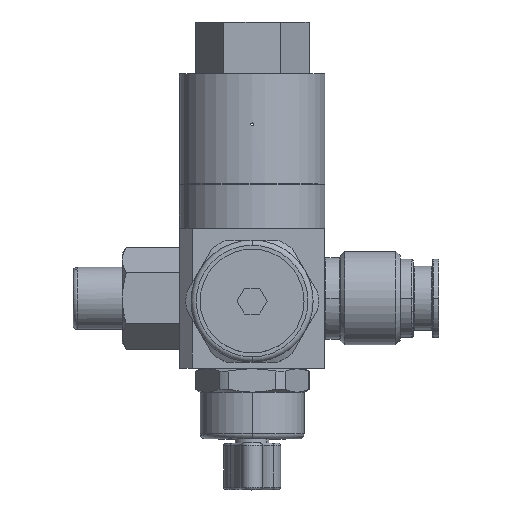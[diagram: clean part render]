
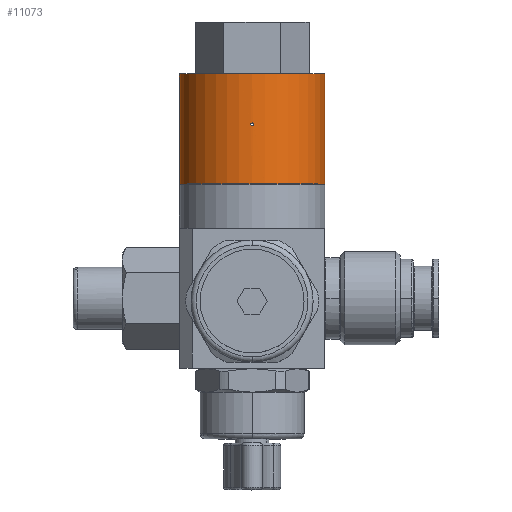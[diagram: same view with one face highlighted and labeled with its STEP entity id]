
A CAD part, top view. The second image highlights one B-rep face of the part: STEP entity #11073.
In plain terms, the highlighted cylindrical face has radius 14 mm (diameter 28 mm), a partial arc.
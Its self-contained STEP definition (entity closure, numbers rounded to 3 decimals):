
#10553=CARTESIAN_POINT('',(0.,0.,0.));
#10554=DIRECTION('',(0.,-1.,0.));
#10555=DIRECTION('',(-1.,0.,0.));
#10556=AXIS2_PLACEMENT_3D('',#10553,#10554,#10555);
#10579=DIRECTION('',(0.,1.,0.));
#10580=VECTOR('',#10579,21.2);
#10581=CARTESIAN_POINT('',(14.,-21.2,0.));
#10582=LINE('',#10581,#10580);
#10583=CARTESIAN_POINT('',(0.,-9.45,-14.));
#10584=CARTESIAN_POINT('',(0.034,-9.45,-14.));
#10585=CARTESIAN_POINT('',(0.095,-9.463,
-14.));
#10586=CARTESIAN_POINT('',(0.178,-9.515,
-13.999));
#10587=CARTESIAN_POINT('',(0.236,-9.598,
-13.998));
#10588=CARTESIAN_POINT('',(0.257,-9.699,
-13.998));
#10589=CARTESIAN_POINT('',(0.238,-9.796,
-13.998));
#10590=CARTESIAN_POINT('',(0.182,-9.881,
-13.999));
#10591=CARTESIAN_POINT('',(0.098,-9.937,
-14.));
#10592=CARTESIAN_POINT('',(0.035,-9.95,-14.));
#10593=CARTESIAN_POINT('',(0.,-9.95,-14.));
#10595=CARTESIAN_POINT('',(0.,-9.95,-14.));
#10596=CARTESIAN_POINT('',(-0.034,-9.95,-14.));
#10597=CARTESIAN_POINT('',(-0.095,-9.937,
-14.));
#10598=CARTESIAN_POINT('',(-0.177,-9.885,
-13.999));
#10599=CARTESIAN_POINT('',(-0.236,-9.802,
-13.998));
#10600=CARTESIAN_POINT('',(-0.257,-9.701,
-13.998));
#10601=CARTESIAN_POINT('',(-0.238,-9.604,
-13.998));
#10602=CARTESIAN_POINT('',(-0.182,-9.519,
-13.999));
#10603=CARTESIAN_POINT('',(-0.098,-9.463,
-14.));
#10604=CARTESIAN_POINT('',(-0.035,-9.45,-14.));
#10605=CARTESIAN_POINT('',(0.,-9.45,-14.));
#10607=DIRECTION('',(0.,1.,0.));
#10608=VECTOR('',#10607,21.2);
#10609=CARTESIAN_POINT('',(-14.,-21.2,0.));
#10610=LINE('',#10609,#10608);
#10635=CARTESIAN_POINT('',(0.,-21.2,0.));
#10636=DIRECTION('',(0.,1.,0.));
#10637=DIRECTION('',(1.,0.,0.));
#10638=AXIS2_PLACEMENT_3D('',#10635,#10636,#10637);
#10921=CARTESIAN_POINT('',(-14.,0.,0.));
#10922=CARTESIAN_POINT('',(14.,0.,0.));
#10923=VERTEX_POINT('',#10921);
#10924=VERTEX_POINT('',#10922);
#10933=CARTESIAN_POINT('',(-14.,-21.2,0.));
#10934=VERTEX_POINT('',#10933);
#10935=CARTESIAN_POINT('',(14.,-21.2,0.));
#10936=VERTEX_POINT('',#10935);
#10937=VERTEX_POINT('',#10583);
#10938=VERTEX_POINT('',#10593);
#11053=CARTESIAN_POINT('',(0.,0.,0.));
#11054=DIRECTION('',(0.,-1.,0.));
#11055=DIRECTION('',(-1.,0.,0.));
#11056=AXIS2_PLACEMENT_3D('',#11053,#11054,#11055);
#11057=CYLINDRICAL_SURFACE('',#11056,14.);
#11058=ORIENTED_EDGE('',*,*,#11033,.F.);
#11060=ORIENTED_EDGE('',*,*,#11059,.F.);
#11062=ORIENTED_EDGE('',*,*,#11061,.F.);
#11064=ORIENTED_EDGE('',*,*,#11063,.T.);
#11065=EDGE_LOOP('',(#11058,#11060,#11062,#11064));
#11066=FACE_OUTER_BOUND('',#11065,.F.);
#11068=ORIENTED_EDGE('',*,*,#11067,.T.);
#11070=ORIENTED_EDGE('',*,*,#11069,.T.);
#11071=EDGE_LOOP('',(#11068,#11070));
#11072=FACE_BOUND('',#11071,.F.);
#11073=ADVANCED_FACE('',(#11066,#11072),#11057,.T.);
#10557=CIRCLE('',#10556,14.);
#10594=B_SPLINE_CURVE_WITH_KNOTS('',3,(#10583,#10584,#10585,#10586,#10587,
#10588,#10589,#10590,#10591,#10592,#10593),.UNSPECIFIED.,.F.,.F.,(4,1,1,1,1,1,1,
1,4),(0.,0.125,0.25,0.375,0.5,0.625,0.75,0.875,1.),
.UNSPECIFIED.);
#10606=B_SPLINE_CURVE_WITH_KNOTS('',3,(#10595,#10596,#10597,#10598,#10599,
#10600,#10601,#10602,#10603,#10604,#10605),.UNSPECIFIED.,.F.,.F.,(4,1,1,1,1,1,1,
1,4),(0.,0.125,0.25,0.375,0.5,0.625,0.75,0.875,1.),
.UNSPECIFIED.);
#10639=CIRCLE('',#10638,14.);
#11033=EDGE_CURVE('',#10923,#10924,#10557,.T.);
#11059=EDGE_CURVE('',#10934,#10923,#10610,.T.);
#11061=EDGE_CURVE('',#10936,#10934,#10639,.T.);
#11063=EDGE_CURVE('',#10936,#10924,#10582,.T.);
#11067=EDGE_CURVE('',#10937,#10938,#10594,.T.);
#11069=EDGE_CURVE('',#10938,#10937,#10606,.T.);
